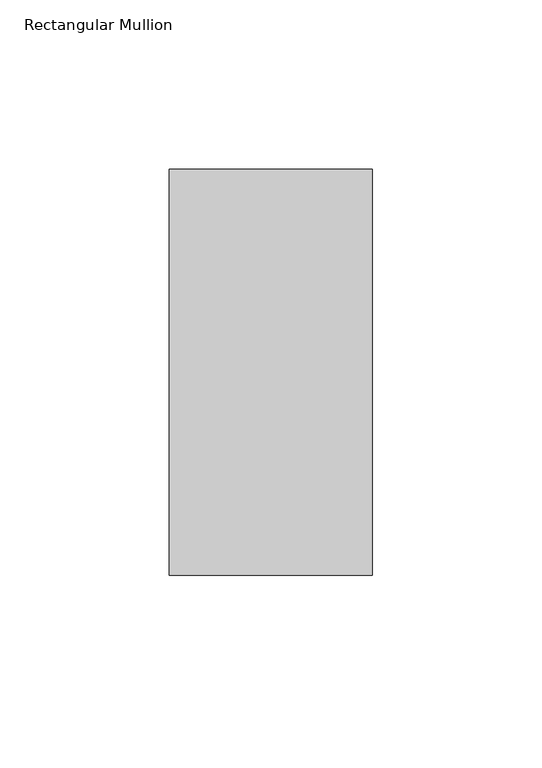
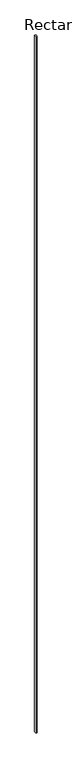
"""IFC4 building model written with IfcOpenShell, lengths in millimetres: member geometry, Rectangular Mullion : Terça."""

from ifc_helpers import new_model, si_unit, frame, origin, place, context, project, spatial, polyline, outline, extrude, source, transform, mapped, element, save


def rectangular_mullion_b426adaa(model_context):
    return source(origin(), model_context, "Body", "SweptSolid", [
        extrude(outline(polyline([(0.0, -120.0), (-60.0, -120.0), (-60.0, 0.0), (0.0, 0.0), (0.0, -120.0)])), frame((0.0, 0.0, -39475.0011106), z_axis=(0.0, 0.0, 1.0), x_axis=(1.0, 0.0, 0.0)), (0.0, 0.0, 1.0), 39475.0011106),
    ])


if __name__ == "__main__":
    model = new_model("IFC4")
    model_context = context("Model", 3, world=origin())
    ifc_project = project(units=[si_unit("LENGTHUNIT", "METRE", prefix="MILLI")], contexts=[model_context])
    site = spatial("IfcSite", under=ifc_project)
    building = spatial("IfcBuilding", under=site)
    placement = place(None, origin())
    rectangular_mullion_shape = rectangular_mullion_b426adaa(model_context)
    element("IfcMember", 1, ObjectType="Rectangular Mullion : Terça", at=placement, inside=building, context=model_context, shape_type="MappedRepresentation", body=[
        mapped(rectangular_mullion_shape, transform((0.0, 0.0, 0.0), x_axis=(1.0, 0.0, 0.0), y_axis=(0.0, 1.0, 0.0), z_axis=(0.0, 0.0, 1.0))),
    ])
    save(model, "model.ifc")
